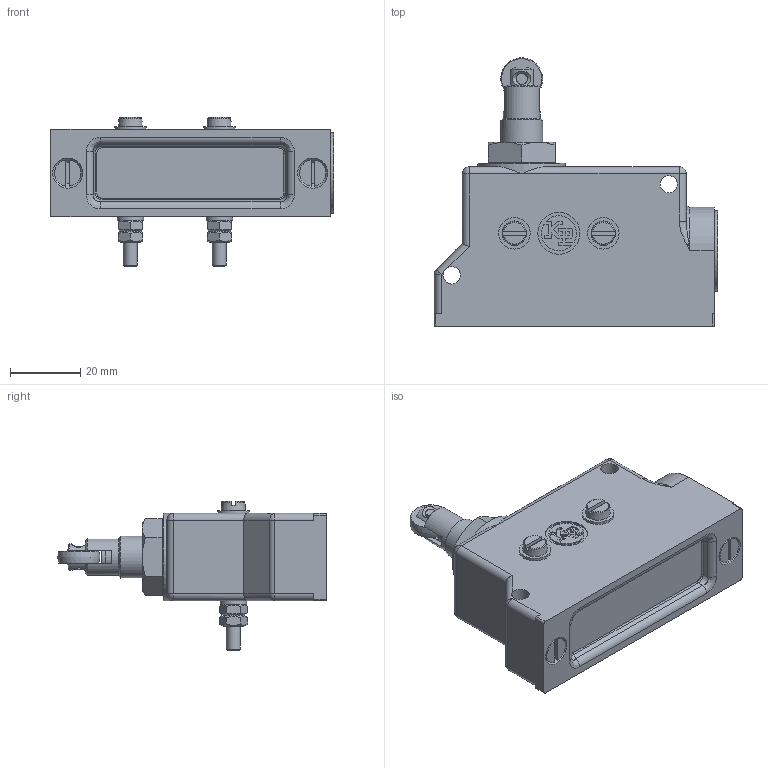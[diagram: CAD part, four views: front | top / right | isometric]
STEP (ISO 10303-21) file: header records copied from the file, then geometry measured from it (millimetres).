
FILE_DESCRIPTION(('Microrutor Basico Protegido Fixacao Lateral Parafuso M4x40 Atuador Botao c/ Roldana'),'2;1');
FILE_NAME('E:\WorkFolder\Bibl\3DWeb\kp_mc_mc6s1_step.stp','2013-01-11T11:21:59',('DIE'),('KAP'),'Autodesk Inventor 2011','Autodesk Inventor 2011','Direitos reservados. Proibido reproducao, cedencia ou revelacao de conteudo a terceiros, salvo com autorizacao.');
FILE_SCHEMA(('AUTOMOTIVE_DESIGN { 1 0 10303 214 1 1 1 1 }'));
Length unit declared in the file: millimetre
Products named in the file (3): MC6S1_3D; MC_Caixa_6; MC_Atuador_S1
Assembly tree (2 placements, depth 2):
  MC6S1_3D
    MC_Caixa_6
    MC_Atuador_S1
Bounding box: 81 x 76.63 x 42.6 mm (x, y, z)
Volume: 80904.3 mm3; surface area: 19129.7 mm2
Topology: 2 solids, 13 shells, 397 faces, 954 edges, 604 vertices
Faces by surface type: plane 213, cylinder 106, cone 32, bspline 31, sphere 9, torus 6
Full cylindrical faces by diameter (mm): 2.459 x1, 3 x4, 3.242 x2, 3.621 x2, 4 x8, 4.3 x2, 4.5 x4, 4.805 x2, 5 x4, 6 x1, 6.2 x1, 7.6 x1, 7.937 x1, 9 x2, 10.5 x1, 12 x2, 18.5 x2, 23 x1, 25 x1
Entity records: 13024 total; most frequent: CARTESIAN_POINT 4130, DIRECTION 1710, ORIENTED_EDGE 1684, EDGE_CURVE 842, AXIS2_PLACEMENT_3D 657, VERTEX_POINT 569, EDGE_LOOP 517, FACE_OUTER_BOUND 396
